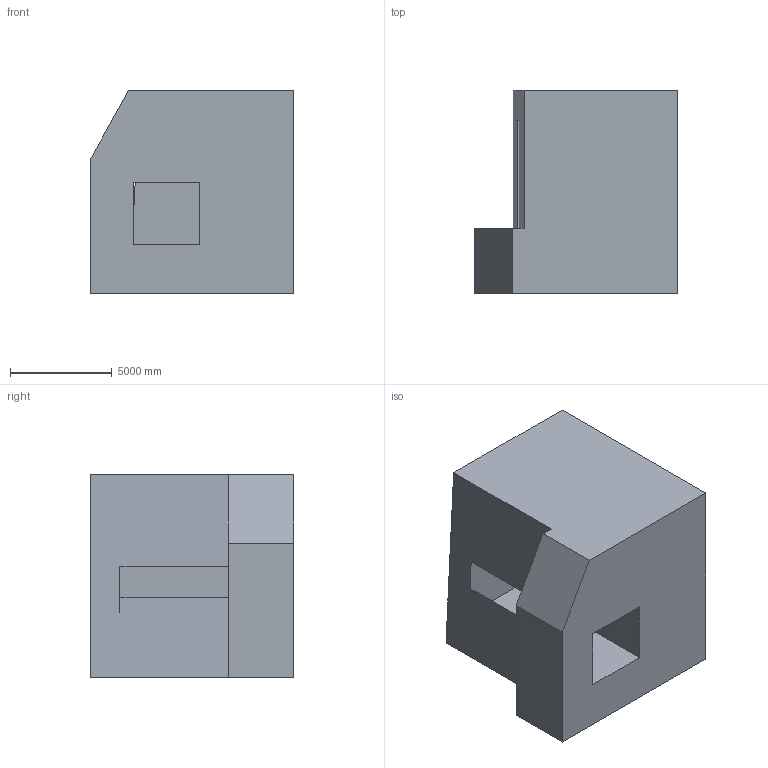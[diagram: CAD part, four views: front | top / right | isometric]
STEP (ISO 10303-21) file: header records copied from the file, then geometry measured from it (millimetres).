
FILE_DESCRIPTION (( 'STEP AP203' ), '1' );
FILE_NAME ('259.STEP', '2022-09-07T12:29:09', ( 'user' ), ( '' ), 'SwSTEP 2.0', 'SolidWorks 2021', '' );
FILE_SCHEMA (( 'CONFIG_CONTROL_DESIGN' ));
Length unit declared in the file: centimetre
Products named in the file (1): 259
Bounding box: 10000 x 10000 x 10000 mm (x, y, z)
Volume: 756853746206.5 mm3; surface area: 650553298.9 mm2
Topology: 1 solids, 1 shells, 14 faces, 39 edges, 26 vertices
Faces by surface type: plane 14
Entity records: 524 total; most frequent: CARTESIAN_POINT 80, ORIENTED_EDGE 78, DIRECTION 69, LINE 39, EDGE_CURVE 39, VECTOR 39, VERTEX_POINT 26, EDGE_LOOP 15
